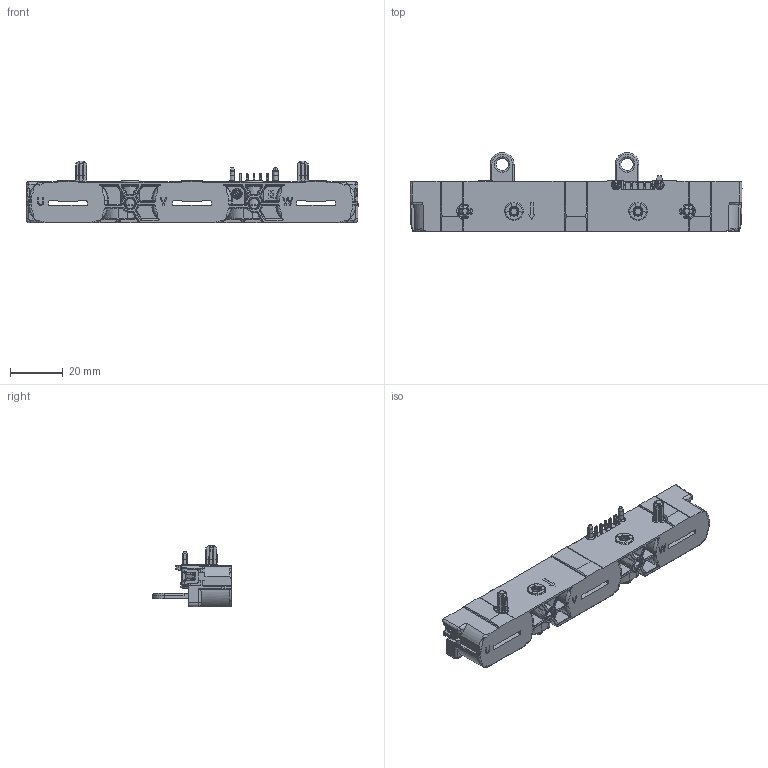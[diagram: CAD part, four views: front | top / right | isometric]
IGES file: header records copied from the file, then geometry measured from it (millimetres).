
Start section: Elysium IGES Interface
Global section: file name: C:/Users/yho/AppData/Local/Temp/392knbd5sq7jspe41168.igs; native system: Creo Elements/Direct Modeling 20.3D  14-Nov-2022; preprocessor: Creo Element/Direct IGES_3D V2.2; author: Unknown; organization: Unknown; date: 20230920.151540; units: millimetre
Bounding box: 125.81 x 29.85 x 23.45 mm (x, y, z)
Volume: 27719.7 mm3; surface area: 15896.2 mm2
Topology: 2 solids, 25 shells, 4146 faces, 10863 edges, 6791 vertices
Faces by surface type: bspline 4146
